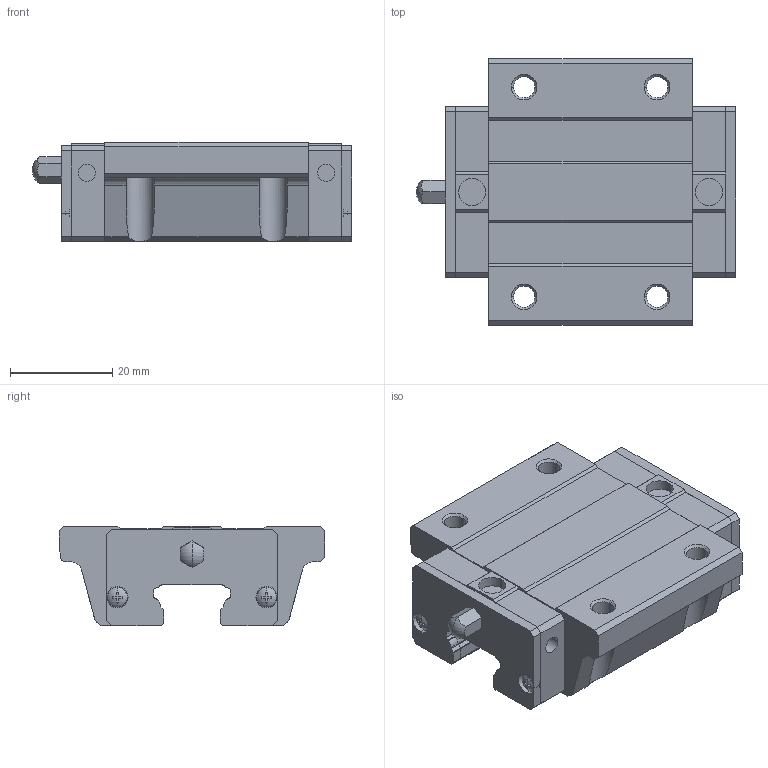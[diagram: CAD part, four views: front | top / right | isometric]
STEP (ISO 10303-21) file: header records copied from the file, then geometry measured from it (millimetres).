
FILE_DESCRIPTION(('starvars output'),'2;1');
FILE_NAME('cv20190609225850000174427.stp','22:58:51 2019/06/09',( 'Thomas Industrial Network Germany GmbH'),( 'Thomas Industrial Network Germany GmbH'),'unknown preprocess','ACIS' ,'unknown authorization');
FILE_SCHEMA(('CONFIG_CONTROL_DESIGN {UNKNOWN IMPLEMENTATION LEVEL}'));
Length unit declared in the file: millimetre
Products named in the file (10): PRODUCT_ID_1; PRODUCT_ID_2; PRODUCT_ID_3; PRODUCT_ID_4; PRODUCT_ID_5; PRODUCT_ID_6; PRODUCT_ID_7; PRODUCT_ID_8; PRODUCT_ID_9; PRODUCT_ID_10
Bounding box: 62.5 x 52 x 19.5 mm (x, y, z)
Volume: 38155.3 mm3; surface area: 15084.1 mm2
Topology: 10 solids, 10 shells, 380 faces, 1025 edges, 672 vertices
Faces by surface type: plane 209, cylinder 137, cone 24, sphere 10
Entity records: 12014 total; most frequent: ORIENTED_EDGE 2058, CARTESIAN_POINT 1889, DIRECTION 1832, EDGE_CURVE 1025, VERTEX_POINT 672, AXIS2_PLACEMENT_3D 615, VECTOR 602, LINE 602
